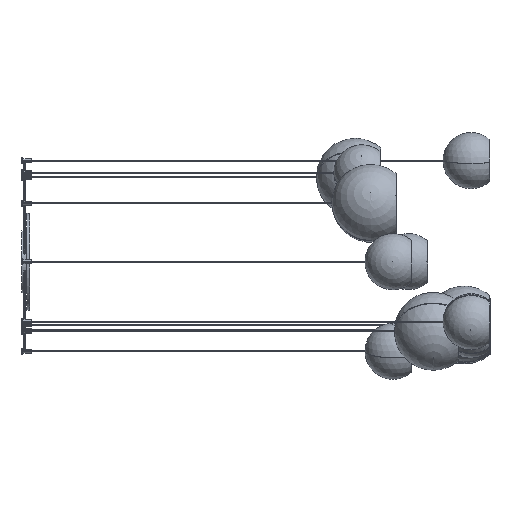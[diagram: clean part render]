
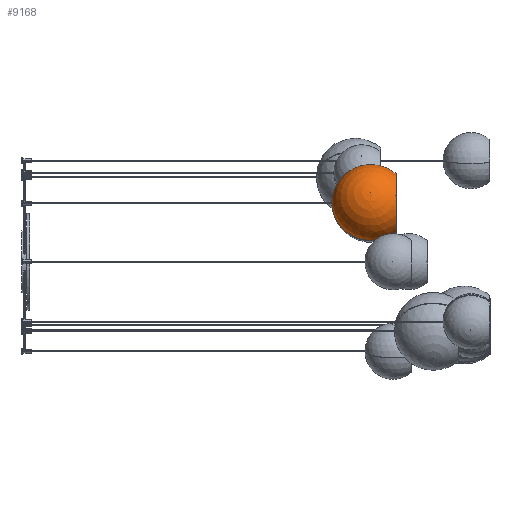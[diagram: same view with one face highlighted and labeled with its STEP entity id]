
A CAD part, left-side view. The second image highlights one B-rep face of the part: STEP entity #9168.
In plain terms, the highlighted spherical face has radius 125 mm.
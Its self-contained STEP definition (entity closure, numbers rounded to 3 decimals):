
#33 = DIRECTION ( 'NONE',  ( 0., 0., 1. ) ) ;
#109 = AXIS2_PLACEMENT_3D ( 'NONE', #7747, #33, #148 ) ;
#148 = DIRECTION ( 'NONE',  ( 1., 0., 0. ) ) ;
#540 = CARTESIAN_POINT ( 'NONE',  ( 0., 81., 0. ) ) ;
#810 = EDGE_CURVE ( 'NONE', #6342, #10015, #3501, .T. ) ;
#868 = FACE_OUTER_BOUND ( 'NONE', #7372, .T. ) ;
#972 = CARTESIAN_POINT ( 'NONE',  ( 2., 205.984, 0. ) ) ;
#999 = EDGE_CURVE ( 'NONE', #10015, #6596, #10453, .T. ) ;
#1153 = DIRECTION ( 'NONE',  ( 0., 0., -1. ) ) ;
#2627 = CARTESIAN_POINT ( 'NONE',  ( 0., 205.984, -2. ) ) ;
#2970 = ORIENTED_EDGE ( 'NONE', *, *, #10273, .F. ) ;
#3501 = CIRCLE ( 'NONE', #6024, 2. ) ;
#3513 = CARTESIAN_POINT ( 'NONE',  ( 0., 81., 0. ) ) ;
#3548 = CIRCLE ( 'NONE', #6617, 125. ) ;
#3981 = DIRECTION ( 'NONE',  ( 0., -1., 0. ) ) ;
#4305 = DIRECTION ( 'NONE',  ( 0., 0., 1. ) ) ;
#4766 = AXIS2_PLACEMENT_3D ( 'NONE', #3513, #4305, #7744 ) ;
#4775 = AXIS2_PLACEMENT_3D ( 'NONE', #5753, #9178, #4900 ) ;
#4900 = DIRECTION ( 'NONE',  ( 0., 0., -1. ) ) ;
#5322 = CIRCLE ( 'NONE', #4775, 95.205 ) ;
#5753 = CARTESIAN_POINT ( 'NONE',  ( 0., 0., 0. ) ) ;
#5866 = CIRCLE ( 'NONE', #109, 125. ) ;
#6009 = ORIENTED_EDGE ( 'NONE', *, *, #7554, .T. ) ;
#6024 = AXIS2_PLACEMENT_3D ( 'NONE', #8265, #3981, #7196 ) ;
#6180 = VERTEX_POINT ( 'NONE', #7365 ) ;
#6339 = DIRECTION ( 'NONE',  ( -1., 0., 0. ) ) ;
#6342 = VERTEX_POINT ( 'NONE', #7417 ) ;
#6596 = VERTEX_POINT ( 'NONE', #972 ) ;
#6617 = AXIS2_PLACEMENT_3D ( 'NONE', #540, #1153, #6339 ) ;
#6672 = AXIS2_PLACEMENT_3D ( 'NONE', #8381, #11038, #6785 ) ;
#6785 = DIRECTION ( 'NONE',  ( 0., 0., -1. ) ) ;
#6823 = VERTEX_POINT ( 'NONE', #7403 ) ;
#7196 = DIRECTION ( 'NONE',  ( 0., 0., -1. ) ) ;
#7365 = CARTESIAN_POINT ( 'NONE',  ( -95.205, 0., 0. ) ) ;
#7372 = EDGE_LOOP ( 'NONE', ( #9137, #7733, #8641, #6009, #2970 ) ) ;
#7403 = CARTESIAN_POINT ( 'NONE',  ( 95.205, 0., 0. ) ) ;
#7417 = CARTESIAN_POINT ( 'NONE',  ( -2., 205.984, 0. ) ) ;
#7554 = EDGE_CURVE ( 'NONE', #6596, #6823, #3548, .T. ) ;
#7733 = ORIENTED_EDGE ( 'NONE', *, *, #810, .T. ) ;
#7744 = DIRECTION ( 'NONE',  ( 1., 0., 0. ) ) ;
#7747 = CARTESIAN_POINT ( 'NONE',  ( 0., 81., 0. ) ) ;
#7801 = SPHERICAL_SURFACE ( 'NONE', #4766, 125. ) ;
#8265 = CARTESIAN_POINT ( 'NONE',  ( 0., 205.984, 0. ) ) ;
#8381 = CARTESIAN_POINT ( 'NONE',  ( 0., 205.984, 0. ) ) ;
#8641 = ORIENTED_EDGE ( 'NONE', *, *, #999, .T. ) ;
#9137 = ORIENTED_EDGE ( 'NONE', *, *, #10449, .F. ) ;
#9168 = ADVANCED_FACE ( 'NONE', ( #868 ), #7801, .T. ) ;
#9178 = DIRECTION ( 'NONE',  ( 0., -1., 0. ) ) ;
#10015 = VERTEX_POINT ( 'NONE', #2627 ) ;
#10273 = EDGE_CURVE ( 'NONE', #6180, #6823, #5322, .T. ) ;
#10449 = EDGE_CURVE ( 'NONE', #6342, #6180, #5866, .T. ) ;
#10453 = CIRCLE ( 'NONE', #6672, 2. ) ;
#11038 = DIRECTION ( 'NONE',  ( 0., -1., 0. ) ) ;
